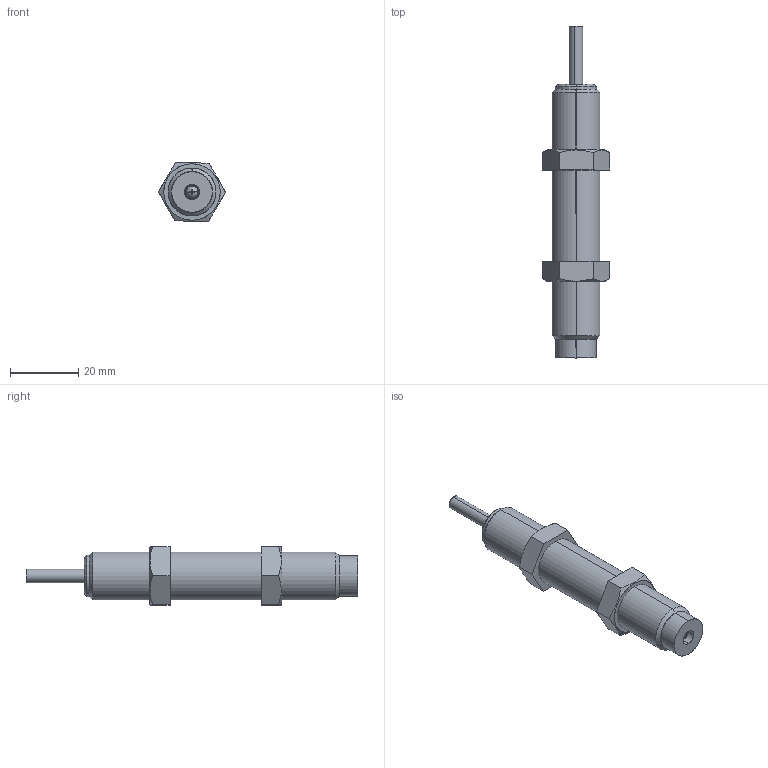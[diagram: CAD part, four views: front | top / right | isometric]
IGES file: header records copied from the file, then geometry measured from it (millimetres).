
Start section: SolidWorks IGES file using analytic representation for surfaces
Bounding box: 19.63 x 97 x 17.09 mm (x, y, z)
Surface area: 5550.3 mm2 (no closed solid volume)
Topology: 0 solids, 0 shells, 57 faces, 832 edges, 832 vertices
Faces by surface type: bspline 31, revolution 26
